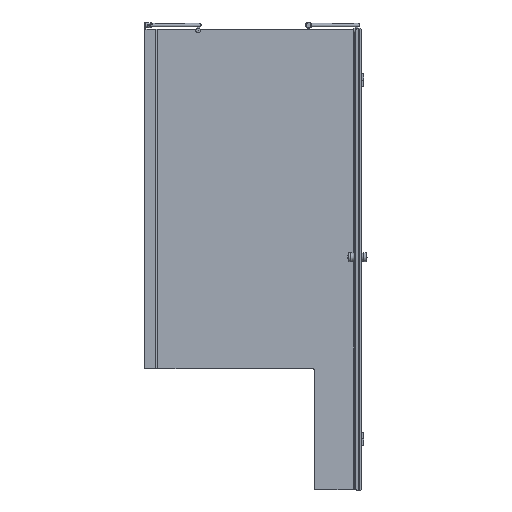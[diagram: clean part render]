
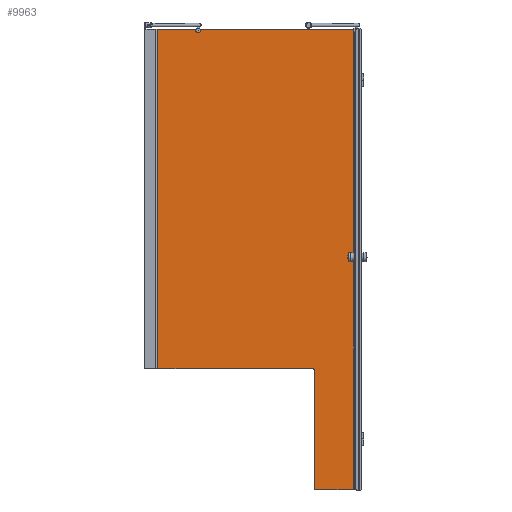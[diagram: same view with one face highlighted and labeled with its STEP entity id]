
A CAD part, left-side view. The second image highlights one B-rep face of the part: STEP entity #9963.
In plain terms, the highlighted planar face has unit normal (-1, 0, 0).
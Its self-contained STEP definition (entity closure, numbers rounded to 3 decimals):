
#559=LINE($,#15215,#1572);
#579=LINE($,#15290,#1592);
#595=LINE($,#15330,#1608);
#703=LINE($,#15820,#1716);
#708=LINE($,#15829,#1721);
#715=LINE($,#15845,#1728);
#716=LINE($,#15848,#1729);
#717=LINE($,#15852,#1730);
#718=LINE($,#15854,#1731);
#719=LINE($,#15856,#1732);
#720=LINE($,#15858,#1733);
#721=LINE($,#15860,#1734);
#722=LINE($,#15862,#1735);
#723=LINE($,#15864,#1736);
#724=LINE($,#15866,#1737);
#725=LINE($,#15868,#1738);
#726=LINE($,#15870,#1739);
#727=LINE($,#15877,#1740);
#728=LINE($,#15879,#1741);
#729=LINE($,#15881,#1742);
#730=LINE($,#15882,#1743);
#1572=VECTOR($,#12196,631.666);
#1592=VECTOR($,#12252,2.457);
#1608=VECTOR($,#12278,158.474);
#1716=VECTOR($,#12536,1.);
#1721=VECTOR($,#12545,1400.);
#1728=VECTOR($,#12564,52.);
#1729=VECTOR($,#12567,691.);
#1730=VECTOR($,#12570,491.);
#1731=VECTOR($,#12571,1.);
#1732=VECTOR($,#12572,1.);
#1733=VECTOR($,#12573,0.019);
#1734=VECTOR($,#12574,1.);
#1735=VECTOR($,#12575,158.4);
#1736=VECTOR($,#12576,1.);
#1737=VECTOR($,#12577,5.581);
#1738=VECTOR($,#12578,2.);
#1739=VECTOR($,#12579,12.192);
#1740=VECTOR($,#12586,1884.733);
#1741=VECTOR($,#12587,1898.);
#1742=VECTOR($,#12588,2.543);
#1743=VECTOR($,#12589,1898.);
#2618=FACE_OUTER_BOUND($,#3170,.T.);
#3170=EDGE_LOOP($,(#7591,#7592,#7593,#7594,#7595,#7596,#7597,#7598,#7599,
#7600,#7601,#7602,#7603,#7604,#7605,#7606,#7607,#7608,#7609,#7610,#7611,
#7612,#7613,#7614,#7615,#7616));
#3488=CIRCLE($,#10504,10.);
#3552=CIRCLE($,#10636,9.);
#3553=CIRCLE($,#10637,16.);
#3554=CIRCLE($,#10638,0.5);
#3555=CIRCLE($,#10639,16.);
#4102=VERTEX_POINT($,#14974);
#4104=VERTEX_POINT($,#14978);
#4137=VERTEX_POINT($,#15214);
#4173=VERTEX_POINT($,#15286);
#4174=VERTEX_POINT($,#15288);
#4193=VERTEX_POINT($,#15328);
#4303=VERTEX_POINT($,#15817);
#4304=VERTEX_POINT($,#15819);
#4306=VERTEX_POINT($,#15828);
#4310=VERTEX_POINT($,#15847);
#4311=VERTEX_POINT($,#15849);
#4312=VERTEX_POINT($,#15851);
#4313=VERTEX_POINT($,#15853);
#4314=VERTEX_POINT($,#15855);
#4315=VERTEX_POINT($,#15857);
#4316=VERTEX_POINT($,#15859);
#4317=VERTEX_POINT($,#15861);
#4318=VERTEX_POINT($,#15863);
#4319=VERTEX_POINT($,#15865);
#4320=VERTEX_POINT($,#15867);
#4321=VERTEX_POINT($,#15869);
#4322=VERTEX_POINT($,#15871);
#4323=VERTEX_POINT($,#15873);
#4324=VERTEX_POINT($,#15875);
#4325=VERTEX_POINT($,#15878);
#4326=VERTEX_POINT($,#15880);
#5216=EDGE_CURVE($,#4102,#4104,#3488,.T.);
#5256=EDGE_CURVE($,#4137,#4102,#559,.T.);
#5294=EDGE_CURVE($,#4173,#4174,#579,.T.);
#5314=EDGE_CURVE($,#4104,#4193,#595,.T.);
#5464=EDGE_CURVE($,#4304,#4303,#703,.T.);
#5469=EDGE_CURVE($,#4193,#4306,#708,.T.);
#5477=EDGE_CURVE($,#4306,#4304,#715,.T.);
#5478=EDGE_CURVE($,#4310,#4303,#716,.T.);
#5479=EDGE_CURVE($,#4311,#4310,#3552,.T.);
#5480=EDGE_CURVE($,#4311,#4312,#717,.T.);
#5481=EDGE_CURVE($,#4313,#4312,#718,.T.);
#5482=EDGE_CURVE($,#4313,#4314,#719,.T.);
#5483=EDGE_CURVE($,#4315,#4314,#720,.T.);
#5484=EDGE_CURVE($,#4315,#4316,#721,.T.);
#5485=EDGE_CURVE($,#4316,#4317,#722,.T.);
#5486=EDGE_CURVE($,#4318,#4317,#723,.T.);
#5487=EDGE_CURVE($,#4319,#4318,#724,.T.);
#5488=EDGE_CURVE($,#4320,#4319,#725,.T.);
#5489=EDGE_CURVE($,#4321,#4320,#726,.T.);
#5490=EDGE_CURVE($,#4321,#4322,#3553,.T.);
#5491=EDGE_CURVE($,#4322,#4323,#3554,.T.);
#5492=EDGE_CURVE($,#4323,#4324,#3555,.T.);
#5493=EDGE_CURVE($,#4173,#4324,#727,.T.);
#5494=EDGE_CURVE($,#4174,#4325,#728,.T.);
#5495=EDGE_CURVE($,#4325,#4326,#729,.T.);
#5496=EDGE_CURVE($,#4326,#4137,#730,.T.);
#7591=ORIENTED_EDGE($,*,*,#5216,.T.);
#7592=ORIENTED_EDGE($,*,*,#5314,.T.);
#7593=ORIENTED_EDGE($,*,*,#5469,.T.);
#7594=ORIENTED_EDGE($,*,*,#5477,.T.);
#7595=ORIENTED_EDGE($,*,*,#5464,.T.);
#7596=ORIENTED_EDGE($,*,*,#5478,.F.);
#7597=ORIENTED_EDGE($,*,*,#5479,.F.);
#7598=ORIENTED_EDGE($,*,*,#5480,.T.);
#7599=ORIENTED_EDGE($,*,*,#5481,.F.);
#7600=ORIENTED_EDGE($,*,*,#5482,.T.);
#7601=ORIENTED_EDGE($,*,*,#5483,.F.);
#7602=ORIENTED_EDGE($,*,*,#5484,.T.);
#7603=ORIENTED_EDGE($,*,*,#5485,.T.);
#7604=ORIENTED_EDGE($,*,*,#5486,.F.);
#7605=ORIENTED_EDGE($,*,*,#5487,.F.);
#7606=ORIENTED_EDGE($,*,*,#5488,.F.);
#7607=ORIENTED_EDGE($,*,*,#5489,.F.);
#7608=ORIENTED_EDGE($,*,*,#5490,.T.);
#7609=ORIENTED_EDGE($,*,*,#5491,.T.);
#7610=ORIENTED_EDGE($,*,*,#5492,.T.);
#7611=ORIENTED_EDGE($,*,*,#5493,.F.);
#7612=ORIENTED_EDGE($,*,*,#5294,.T.);
#7613=ORIENTED_EDGE($,*,*,#5494,.T.);
#7614=ORIENTED_EDGE($,*,*,#5495,.T.);
#7615=ORIENTED_EDGE($,*,*,#5496,.T.);
#7616=ORIENTED_EDGE($,*,*,#5256,.T.);
#9030=PLANE($,#10635);
#9963=ADVANCED_FACE($,(#2618),#9030,.T.);
#10504=AXIS2_PLACEMENT_3D($,#14980,#12125,#12126);
#10635=AXIS2_PLACEMENT_3D($,#15846,#12565,#12566);
#10636=AXIS2_PLACEMENT_3D($,#15850,#12568,#12569);
#10637=AXIS2_PLACEMENT_3D($,#15872,#12580,#12581);
#10638=AXIS2_PLACEMENT_3D($,#15874,#12582,#12583);
#10639=AXIS2_PLACEMENT_3D($,#15876,#12584,#12585);
#12125=DIRECTION('center_axis',(1.,0.,0.));
#12126=DIRECTION('ref_axis',(0.,0.597,0.802));
#12196=DIRECTION($,(0.,1.,0.));
#12252=DIRECTION($,(0.,1.,0.));
#12278=DIRECTION($,(0.,1.,0.));
#12536=DIRECTION($,(0.,0.,-1.));
#12545=DIRECTION($,(0.,0.,-1.));
#12564=DIRECTION($,(0.,1.,0.));
#12565=DIRECTION('center_axis',(-1.,0.,0.));
#12566=DIRECTION('ref_axis',(0.,1.,0.));
#12567=DIRECTION($,(0.,1.,0.));
#12568=DIRECTION('center_axis',(-1.,0.,0.));
#12569=DIRECTION('ref_axis',(0.,0.,
-1.));
#12570=DIRECTION($,(0.,0.,-1.));
#12571=DIRECTION($,(0.,1.,0.));
#12572=DIRECTION($,(0.,0.,1.));
#12573=DIRECTION($,(0.,1.,0.));
#12574=DIRECTION($,(0.,0.,-1.));
#12575=DIRECTION($,(0.,-1.,0.));
#12576=DIRECTION($,(0.,0.,-1.));
#12577=DIRECTION($,(0.,1.,0.));
#12578=DIRECTION($,(0.,0.,-1.));
#12579=DIRECTION($,(0.,0.,-1.));
#12580=DIRECTION('center_axis',(1.,0.,0.));
#12581=DIRECTION('ref_axis',(0.,-0.71,-0.704));
#12582=DIRECTION('center_axis',(1.,0.,0.));
#12583=DIRECTION('ref_axis',(0.,-0.169,-0.986));
#12584=DIRECTION('center_axis',(-1.,0.,0.));
#12585=DIRECTION('ref_axis',(0.,0.747,0.665));
#12586=DIRECTION($,(0.,0.,-1.));
#12587=DIRECTION($,(0.,0.,-1.));
#12588=DIRECTION($,(0.,1.,0.));
#12589=DIRECTION($,(0.,0.,1.));
#14974=CARTESIAN_POINT('',(1086.59,617.622,1385.944));
#14978=CARTESIAN_POINT('',(1086.59,635.482,1385.944));
#14980=CARTESIAN_POINT('Origin',(1086.59,626.552,1381.444));
#15214=CARTESIAN_POINT('',(1086.59,-14.044,1385.944));
#15215=CARTESIAN_POINT($,(1086.59,-19.044,1385.944));
#15286=CARTESIAN_POINT('',(1086.59,-19.044,1385.944));
#15288=CARTESIAN_POINT('',(1086.59,-16.587,1385.944));
#15290=CARTESIAN_POINT($,(1086.59,-19.044,1385.944));
#15328=CARTESIAN_POINT('',(1086.59,793.956,1385.944));
#15330=CARTESIAN_POINT($,(1086.59,-19.044,1385.944));
#15817=CARTESIAN_POINT('',(1086.59,845.956,-15.056));
#15819=CARTESIAN_POINT('',(1086.59,845.956,-14.056));
#15820=CARTESIAN_POINT($,(1086.59,845.956,-15.056));
#15828=CARTESIAN_POINT('',(1086.59,793.956,-14.056));
#15829=CARTESIAN_POINT($,(1086.59,793.956,1385.944));
#15845=CARTESIAN_POINT($,(1086.59,401.961,-14.056));
#15846=CARTESIAN_POINT('Origin',(1086.59,-19.044,1385.944));
#15847=CARTESIAN_POINT('',(1086.59,154.956,-15.056));
#15848=CARTESIAN_POINT($,(1086.59,154.956,-15.056));
#15849=CARTESIAN_POINT('',(1086.59,145.956,-24.056));
#15850=CARTESIAN_POINT('Origin',(1086.59,154.956,-24.056));
#15851=CARTESIAN_POINT('',(1086.59,145.956,-515.056));
#15852=CARTESIAN_POINT($,(1086.59,145.956,-515.056));
#15853=CARTESIAN_POINT('',(1086.59,144.956,-515.056));
#15854=CARTESIAN_POINT($,(1086.59,144.956,-515.056));
#15855=CARTESIAN_POINT('',(1086.59,144.956,-514.056));
#15856=CARTESIAN_POINT($,(1086.59,144.956,-515.056));
#15857=CARTESIAN_POINT('',(1086.59,144.937,-514.056));
#15858=CARTESIAN_POINT($,(1086.59,-19.044,-514.056));
#15859=CARTESIAN_POINT('',(1086.59,144.937,-515.056));
#15860=CARTESIAN_POINT($,(1086.59,144.937,-514.056));
#15861=CARTESIAN_POINT('',(1086.59,-13.463,-515.056));
#15862=CARTESIAN_POINT($,(1086.59,144.937,-515.056));
#15863=CARTESIAN_POINT('',(1086.59,-13.463,-514.056));
#15864=CARTESIAN_POINT($,(1086.59,-13.463,-514.056));
#15865=CARTESIAN_POINT('',(1086.59,-19.044,-514.056));
#15866=CARTESIAN_POINT($,(1086.59,-19.044,-514.056));
#15867=CARTESIAN_POINT('',(1086.59,-19.044,-512.056));
#15868=CARTESIAN_POINT($,(1086.59,-19.044,1385.944));
#15869=CARTESIAN_POINT('',(1086.59,-19.044,-499.863));
#15870=CARTESIAN_POINT($,(1086.59,-19.044,1385.944));
#15871=CARTESIAN_POINT('',(1086.59,-18.129,-500.048));
#15872=CARTESIAN_POINT('Origin',(1086.59,-15.419,-484.28));
#15873=CARTESIAN_POINT('',(1086.59,-17.939,-499.067));
#15874=CARTESIAN_POINT('Origin',(1086.59,-18.044,-499.556));
#15875=CARTESIAN_POINT('',(1086.59,-19.044,-498.789));
#15876=CARTESIAN_POINT('Origin',(1086.59,-14.589,-483.421));
#15877=CARTESIAN_POINT($,(1086.59,-19.044,1385.944));
#15878=CARTESIAN_POINT('',(1086.59,-16.587,-512.056));
#15879=CARTESIAN_POINT($,(1086.59,-16.587,1385.944));
#15880=CARTESIAN_POINT('',(1086.59,-14.044,-512.056));
#15881=CARTESIAN_POINT($,(1086.59,-18.53,-512.056));
#15882=CARTESIAN_POINT($,(1086.59,-14.044,1385.944));
